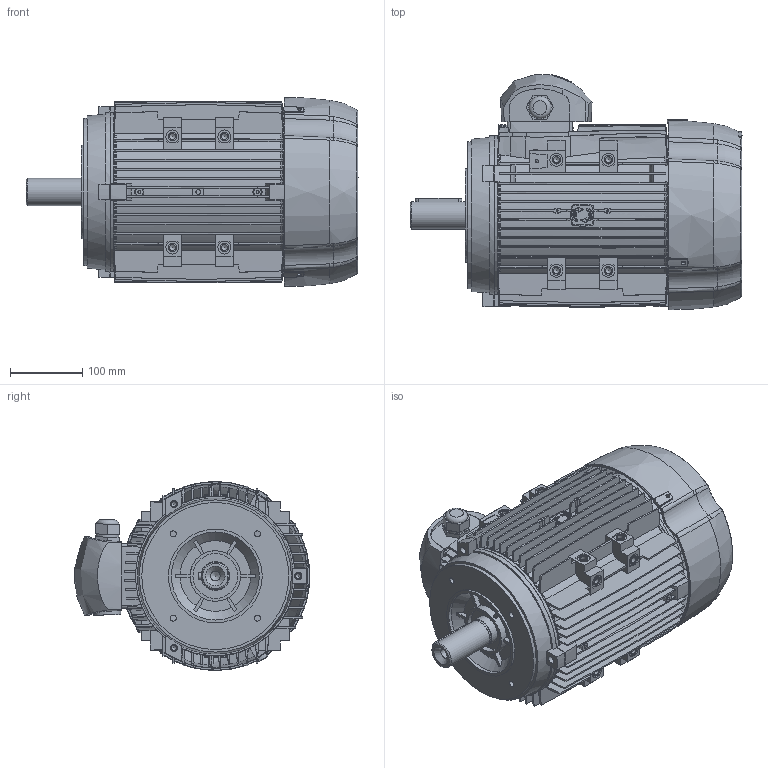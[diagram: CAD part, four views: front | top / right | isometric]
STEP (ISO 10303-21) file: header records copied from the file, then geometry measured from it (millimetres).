
FILE_DESCRIPTION((''),'2;1');
FILE_NAME('D:\htdocs\motive\source_step\M132S.stp','2014-09-10T11:27:22',('ing.Casini'),(''),'Autodesk Inventor 2010','Autodesk Inventor 2010','');
FILE_SCHEMA(('AUTOMOTIVE_DESIGN { 1 0 10303 214 1 1 1 1 }'));
Length unit declared in the file: millimetre
Products named in the file (7): M132S Lighter motor Assly_04.09; BODY132S; B14132; SH132S_4-248-M; NDE132; TBOX_132; FCV132
Assembly tree (6 placements, depth 2):
  M132S Lighter motor Assly_04.09
    BODY132S
    B14132
    SH132S_4-248-M
    NDE132
    TBOX_132
    FCV132
Bounding box: 460.25 x 326.02 x 262.2 mm (x, y, z)
Volume: 3787906.5 mm3; surface area: 1421478.7 mm2
Topology: 8 solids, 8 shells, 2496 faces, 6832 edges, 4481 vertices
Faces by surface type: plane 868, bspline 779, cylinder 378, cone 265, torus 198, sphere 8
Full cylindrical faces by diameter (mm): 2.5 x4, 4.2 x16, 5 x2, 5.556 x1, 5.6 x2, 6 x6, 6.8 x7, 8.5 x16, 9 x3, 10 x3, 12 x12, 13.5 x1, 15 x3, 32 x1, 37.4 x1, 38 x2, 40 x3, 62 x2, 70 x3, 80 x4, 83.5 x2, 122 x1, 130 x1, 204 x2, 210 x1, 211 x4
Entity records: 129937 total; most frequent: CARTESIAN_POINT 72928, ORIENTED_EDGE 13224, DIRECTION 9618, EDGE_CURVE 6612, VERTEX_POINT 4424, AXIS2_PLACEMENT_3D 3658, EDGE_LOOP 2824, FACE_OUTER_BOUND 2496
